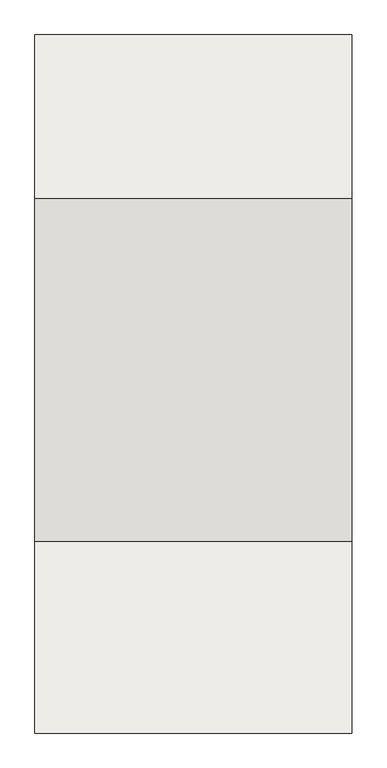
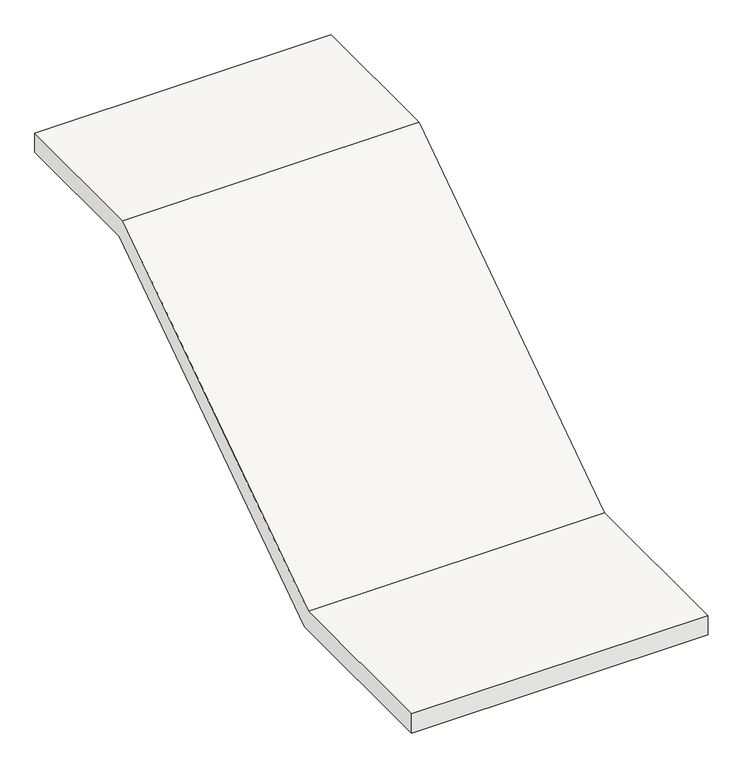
"""IFC4 building model written with IfcOpenShell, lengths in millimetres: slab geometry, 階段室屋根 : 階段室屋根."""

from ifc_helpers import new_model, si_unit, frame, origin, place, context, project, spatial, polyline, outline, extrude, source, transform, mapped, element, save


def slab_83912922(model_context):
    return source(origin(), model_context, "Body", "SweptSolid", [
        extrude(outline(polyline([(-5693.6427736, 11231.7647059), (-7069.7401342, 11231.7647059), (-7069.7401342, 11381.7647059), (-5739.7401342, 11381.7647059), (-3355.5401342, 13000.0), (-2223.3679915, 13000.0), (-2223.3679915, 12850.584448), (-3308.581687, 12850.584448), (-5693.6427736, 11231.7647059)])), frame((11254.3805905, 0.0, 0.0), z_axis=(1.0, 0.0, 0.0), x_axis=(0.0, 1.0, 0.0)), (0.0, 0.0, 1.0), 2200.0),
    ])


if __name__ == "__main__":
    model = new_model("IFC4")
    model_context = context("Model", 3, world=origin())
    ifc_project = project(units=[si_unit("LENGTHUNIT", "METRE", prefix="MILLI")], contexts=[model_context])
    site = spatial("IfcSite", under=ifc_project)
    building = spatial("IfcBuilding", under=site)
    placement = place(None, origin())
    slab_shape = slab_83912922(model_context)
    element("IfcSlab", 1, ObjectType="階段室屋根 : 階段室屋根", at=placement, inside=building, context=model_context, shape_type="MappedRepresentation", body=[
        mapped(slab_shape, transform((0.0, 0.0, 0.0), x_axis=(1.0, 0.0, 0.0), y_axis=(0.0, 1.0, 0.0), z_axis=(0.0, 0.0, 1.0))),
    ])
    save(model, "model.ifc")
